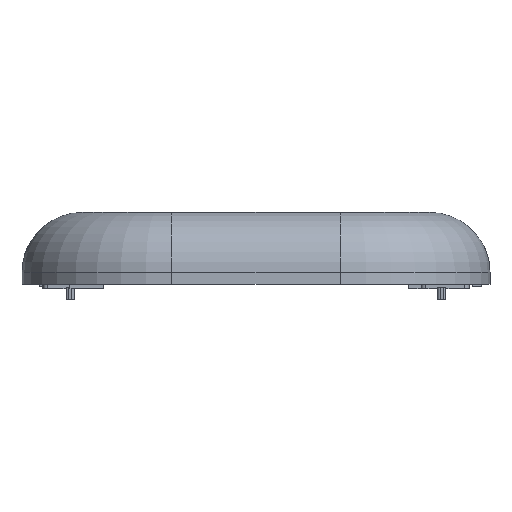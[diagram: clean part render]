
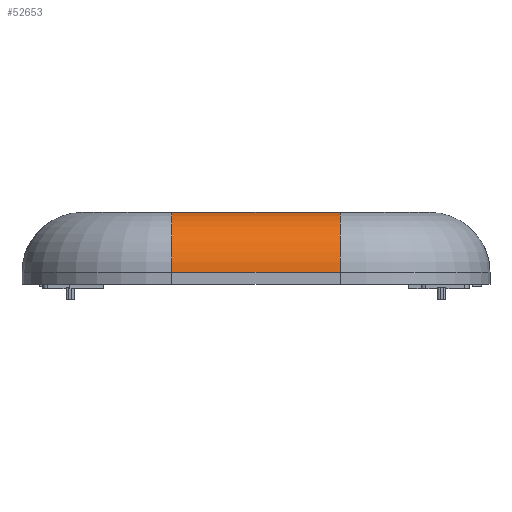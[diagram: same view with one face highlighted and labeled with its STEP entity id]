
A CAD part, front view. The second image highlights one B-rep face of the part: STEP entity #52653.
In plain terms, the highlighted cylindrical face has radius 10 mm (diameter 20 mm), a partial arc.
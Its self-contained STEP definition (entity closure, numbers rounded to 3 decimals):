
#15801 = PLANE('',#15802);
#15802 = AXIS2_PLACEMENT_3D('',#15803,#15804,#15805);
#15803 = CARTESIAN_POINT('',(0.,0.,0.));
#15804 = DIRECTION('',(0.,0.,1.));
#15805 = DIRECTION('',(1.,0.,0.));
#16196 = TOROIDAL_SURFACE('',#16197,15.,10.);
#16197 = AXIS2_PLACEMENT_3D('',#16198,#16199,#16200);
#16198 = CARTESIAN_POINT('',(-14.,-50.,-10.));
#16199 = DIRECTION('',(0.,0.,1.));
#16200 = DIRECTION('',(1.,0.,0.));
#34988 = VERTEX_POINT('',#34989);
#34989 = CARTESIAN_POINT('',(-14.,-65.,0.));
#35015 = EDGE_CURVE('',#35016,#34988,#35018,.T.);
#35016 = VERTEX_POINT('',#35017);
#35017 = CARTESIAN_POINT('',(14.,-65.,0.));
#35018 = SURFACE_CURVE('',#35019,(#35023,#35030),.PCURVE_S1.);
#35019 = LINE('',#35020,#35021);
#35020 = CARTESIAN_POINT('',(0.,-65.,0.));
#35021 = VECTOR('',#35022,1.);
#35022 = DIRECTION('',(-1.,0.,0.));
#35023 = PCURVE('',#15801,#35024);
#35024 = DEFINITIONAL_REPRESENTATION('',(#35025),#35029);
#35025 = LINE('',#35026,#35027);
#35026 = CARTESIAN_POINT('',(0.,-65.));
#35027 = VECTOR('',#35028,1.);
#35028 = DIRECTION('',(-1.,0.));
#35029 = ( GEOMETRIC_REPRESENTATION_CONTEXT(2) 
PARAMETRIC_REPRESENTATION_CONTEXT() REPRESENTATION_CONTEXT('2D SPACE',''
  ) );
#35030 = PCURVE('',#35031,#35036);
#35031 = CYLINDRICAL_SURFACE('',#35032,10.);
#35032 = AXIS2_PLACEMENT_3D('',#35033,#35034,#35035);
#35033 = CARTESIAN_POINT('',(0.,-65.,-10.));
#35034 = DIRECTION('',(1.,0.,0.));
#35035 = DIRECTION('',(0.,-0.707,0.707));
#35036 = DEFINITIONAL_REPRESENTATION('',(#35037),#35041);
#35037 = LINE('',#35038,#35039);
#35038 = CARTESIAN_POINT('',(5.498,0.));
#35039 = VECTOR('',#35040,1.);
#35040 = DIRECTION('',(0.,-1.));
#35041 = ( GEOMETRIC_REPRESENTATION_CONTEXT(2) 
PARAMETRIC_REPRESENTATION_CONTEXT() REPRESENTATION_CONTEXT('2D SPACE',''
  ) );
#35064 = TOROIDAL_SURFACE('',#35065,15.,10.);
#35065 = AXIS2_PLACEMENT_3D('',#35066,#35067,#35068);
#35066 = CARTESIAN_POINT('',(14.,-50.,-10.));
#35067 = DIRECTION('',(0.,0.,1.));
#35068 = DIRECTION('',(1.,0.,0.));
#35829 = EDGE_CURVE('',#35830,#34988,#35832,.T.);
#35830 = VERTEX_POINT('',#35831);
#35831 = CARTESIAN_POINT('',(-14.,-75.,-10.));
#35832 = SURFACE_CURVE('',#35833,(#35838,#35845),.PCURVE_S1.);
#35833 = CIRCLE('',#35834,10.);
#35834 = AXIS2_PLACEMENT_3D('',#35835,#35836,#35837);
#35835 = CARTESIAN_POINT('',(-14.,-65.,-10.));
#35836 = DIRECTION('',(-1.,0.,0.));
#35837 = DIRECTION('',(0.,-1.,0.));
#35838 = PCURVE('',#16196,#35839);
#35839 = DEFINITIONAL_REPRESENTATION('',(#35840),#35844);
#35840 = LINE('',#35841,#35842);
#35841 = CARTESIAN_POINT('',(4.712,0.));
#35842 = VECTOR('',#35843,1.);
#35843 = DIRECTION('',(0.,1.));
#35844 = ( GEOMETRIC_REPRESENTATION_CONTEXT(2) 
PARAMETRIC_REPRESENTATION_CONTEXT() REPRESENTATION_CONTEXT('2D SPACE',''
  ) );
#35845 = PCURVE('',#35031,#35846);
#35846 = DEFINITIONAL_REPRESENTATION('',(#35847),#35851);
#35847 = LINE('',#35848,#35849);
#35848 = CARTESIAN_POINT('',(7.069,-14.));
#35849 = VECTOR('',#35850,1.);
#35850 = DIRECTION('',(-1.,0.));
#35851 = ( GEOMETRIC_REPRESENTATION_CONTEXT(2) 
PARAMETRIC_REPRESENTATION_CONTEXT() REPRESENTATION_CONTEXT('2D SPACE',''
  ) );
#52653 = ADVANCED_FACE('',(#52654),#35031,.T.);
#52654 = FACE_BOUND('',#52655,.T.);
#52655 = EDGE_LOOP('',(#52656,#52680,#52681,#52682));
#52656 = ORIENTED_EDGE('',*,*,#52657,.T.);
#52657 = EDGE_CURVE('',#52658,#35016,#52660,.T.);
#52658 = VERTEX_POINT('',#52659);
#52659 = CARTESIAN_POINT('',(14.,-75.,-10.));
#52660 = SURFACE_CURVE('',#52661,(#52666,#52673),.PCURVE_S1.);
#52661 = CIRCLE('',#52662,10.);
#52662 = AXIS2_PLACEMENT_3D('',#52663,#52664,#52665);
#52663 = CARTESIAN_POINT('',(14.,-65.,-10.));
#52664 = DIRECTION('',(-1.,0.,0.));
#52665 = DIRECTION('',(0.,-1.,0.));
#52666 = PCURVE('',#35031,#52667);
#52667 = DEFINITIONAL_REPRESENTATION('',(#52668),#52672);
#52668 = LINE('',#52669,#52670);
#52669 = CARTESIAN_POINT('',(7.069,14.));
#52670 = VECTOR('',#52671,1.);
#52671 = DIRECTION('',(-1.,0.));
#52672 = ( GEOMETRIC_REPRESENTATION_CONTEXT(2) 
PARAMETRIC_REPRESENTATION_CONTEXT() REPRESENTATION_CONTEXT('2D SPACE',''
  ) );
#52673 = PCURVE('',#35064,#52674);
#52674 = DEFINITIONAL_REPRESENTATION('',(#52675),#52679);
#52675 = LINE('',#52676,#52677);
#52676 = CARTESIAN_POINT('',(4.712,0.));
#52677 = VECTOR('',#52678,1.);
#52678 = DIRECTION('',(0.,1.));
#52679 = ( GEOMETRIC_REPRESENTATION_CONTEXT(2) 
PARAMETRIC_REPRESENTATION_CONTEXT() REPRESENTATION_CONTEXT('2D SPACE',''
  ) );
#52680 = ORIENTED_EDGE('',*,*,#35015,.T.);
#52681 = ORIENTED_EDGE('',*,*,#35829,.F.);
#52682 = ORIENTED_EDGE('',*,*,#52683,.T.);
#52683 = EDGE_CURVE('',#35830,#52658,#52684,.T.);
#52684 = SURFACE_CURVE('',#52685,(#52689,#52696),.PCURVE_S1.);
#52685 = LINE('',#52686,#52687);
#52686 = CARTESIAN_POINT('',(0.,-75.,-10.));
#52687 = VECTOR('',#52688,1.);
#52688 = DIRECTION('',(1.,0.,0.));
#52689 = PCURVE('',#35031,#52690);
#52690 = DEFINITIONAL_REPRESENTATION('',(#52691),#52695);
#52691 = LINE('',#52692,#52693);
#52692 = CARTESIAN_POINT('',(7.069,0.));
#52693 = VECTOR('',#52694,1.);
#52694 = DIRECTION('',(0.,1.));
#52695 = ( GEOMETRIC_REPRESENTATION_CONTEXT(2) 
PARAMETRIC_REPRESENTATION_CONTEXT() REPRESENTATION_CONTEXT('2D SPACE',''
  ) );
#52696 = PCURVE('',#52697,#52702);
#52697 = PLANE('',#52698);
#52698 = AXIS2_PLACEMENT_3D('',#52699,#52700,#52701);
#52699 = CARTESIAN_POINT('',(0.,-75.,-12.));
#52700 = DIRECTION('',(0.,1.,0.));
#52701 = DIRECTION('',(0.,0.,1.));
#52702 = DEFINITIONAL_REPRESENTATION('',(#52703),#52707);
#52703 = LINE('',#52704,#52705);
#52704 = CARTESIAN_POINT('',(2.,0.));
#52705 = VECTOR('',#52706,1.);
#52706 = DIRECTION('',(0.,1.));
#52707 = ( GEOMETRIC_REPRESENTATION_CONTEXT(2) 
PARAMETRIC_REPRESENTATION_CONTEXT() REPRESENTATION_CONTEXT('2D SPACE',''
  ) );
